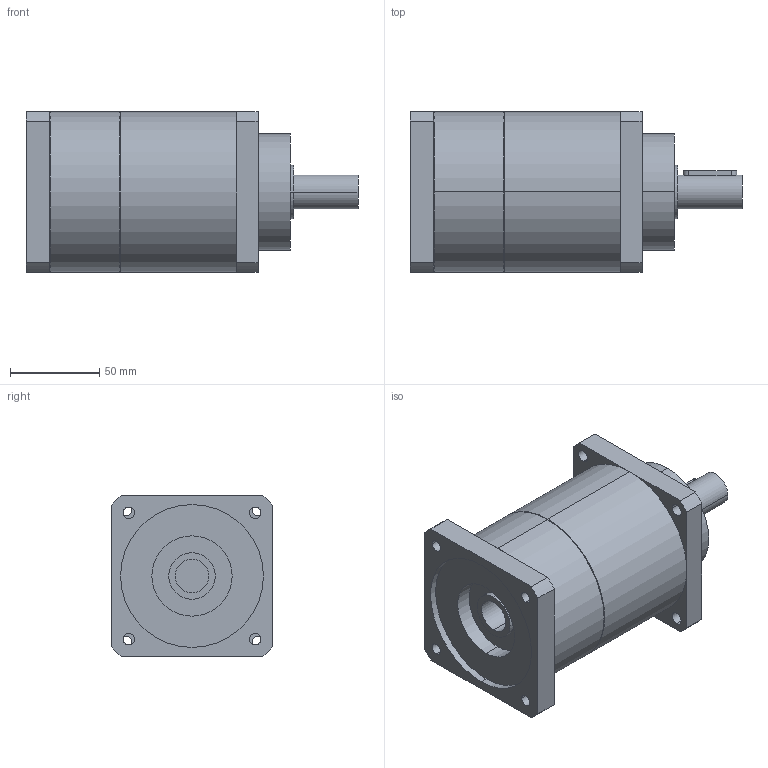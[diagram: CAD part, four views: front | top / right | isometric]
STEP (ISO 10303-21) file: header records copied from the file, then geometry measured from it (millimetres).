
FILE_DESCRIPTION(('CoCreate Modeling STEP Export'),'2;1');
FILE_NAME('GPT90_ig-9-12-16-20-25-28-35-40-50-70-100_19_B5T_19_P06.stp','2015-02-04T11:32:50',(''),(''),'CoCreate Modeling STEP processor for AP214 (Solid Model)','CoCreate Modeling 16.00C 25-Feb-2009 (C) Parametric Technology GmbH','');
FILE_SCHEMA(('AUTOMOTIVE_DESIGN { 1 0 10303 214 1 1 1 1 }'));
Length unit declared in the file: millimetre
Products named in the file (2): GPT90_ig-9-12-16-20-25-28-35-40-50-70-100_19_B5T_19_P06
Assembly tree (1 placements, depth 2):
  GPT90_ig-9-12-16-20-25-28-35-40-50-70-100_19_B5T_19_P06
    GPT90_ig-9-12-16-20-25-28-35-40-50-70-100_19_B5T_19_P06
Bounding box: 186 x 90 x 90 mm (x, y, z)
Volume: 894089.4 mm3; surface area: 70896.1 mm2
Topology: 1 solids, 1 shells, 77 faces, 206 edges, 141 vertices
Faces by surface type: cylinder 46, plane 27, cone 4
Entity records: 2596 total; most frequent: CARTESIAN_POINT 742, ORIENTED_EDGE 412, DIRECTION 324, EDGE_CURVE 206, VERTEX_POINT 141, AXIS2_PLACEMENT_3D 120, EDGE_LOOP 103, VECTOR 84
